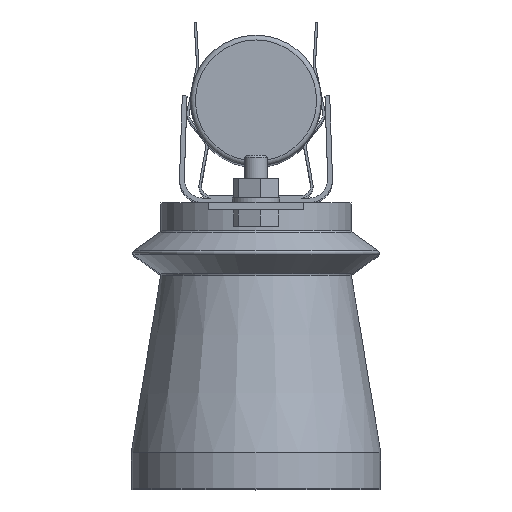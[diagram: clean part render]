
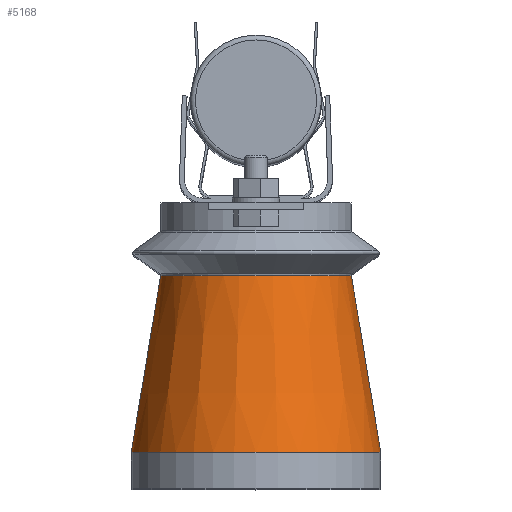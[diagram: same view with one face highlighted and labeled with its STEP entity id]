
A CAD part, top view. The second image highlights one B-rep face of the part: STEP entity #5168.
In plain terms, the highlighted conical face has half-angle 9.462 degrees and reference radius 40 mm.
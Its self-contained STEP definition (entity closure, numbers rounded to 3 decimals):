
#42 = DIRECTION ( 'NONE',  ( 0., 1., 0. ) ) ;
#816 = VERTEX_POINT ( 'NONE', #2719 ) ;
#1326 = CARTESIAN_POINT ( 'NONE',  ( 0., 89.387, 170. ) ) ;
#1486 = EDGE_LOOP ( 'NONE', ( #3900 ) ) ;
#1708 = AXIS2_PLACEMENT_3D ( 'NONE', #5337, #42, #2681 ) ;
#1786 = DIRECTION ( 'NONE',  ( 0., -1., 0. ) ) ;
#2064 = CIRCLE ( 'NONE', #1708, 52.486 ) ;
#2068 = EDGE_LOOP ( 'NONE', ( #3212 ) ) ;
#2215 = DIRECTION ( 'NONE',  ( -1., 0., 0. ) ) ;
#2400 = EDGE_CURVE ( 'NONE', #3295, #3295, #2064, .T. ) ;
#2681 = DIRECTION ( 'NONE',  ( 1., 0., 0. ) ) ;
#2719 = CARTESIAN_POINT ( 'NONE',  ( -40.102, 89.387, 170. ) ) ;
#3019 = EDGE_CURVE ( 'NONE', #816, #816, #3897, .T. ) ;
#3129 = DIRECTION ( 'NONE',  ( -1., 0., 0. ) ) ;
#3212 = ORIENTED_EDGE ( 'NONE', *, *, #3019, .T. ) ;
#3295 = VERTEX_POINT ( 'NONE', #4044 ) ;
#3897 = CIRCLE ( 'NONE', #5393, 40.102 ) ;
#3900 = ORIENTED_EDGE ( 'NONE', *, *, #2400, .T. ) ;
#3990 = AXIS2_PLACEMENT_3D ( 'NONE', #4450, #1786, #3129 ) ;
#4044 = CARTESIAN_POINT ( 'NONE',  ( 52.486, 15.082, 170. ) ) ;
#4288 = CONICAL_SURFACE ( 'NONE', #3990, 40., 0.165 ) ;
#4450 = CARTESIAN_POINT ( 'NONE',  ( 0., 90., 170. ) ) ;
#4551 = FACE_BOUND ( 'NONE', #2068, .T. ) ;
#4874 = DIRECTION ( 'NONE',  ( 0., -1., 0. ) ) ;
#5168 = ADVANCED_FACE ( 'NONE', ( #5607, #4551 ), #4288, .T. ) ;
#5337 = CARTESIAN_POINT ( 'NONE',  ( 0., 15.082, 170. ) ) ;
#5393 = AXIS2_PLACEMENT_3D ( 'NONE', #1326, #4874, #2215 ) ;
#5607 = FACE_OUTER_BOUND ( 'NONE', #1486, .T. ) ;
